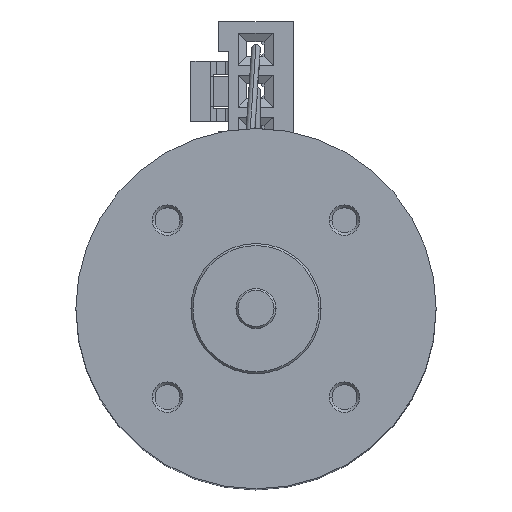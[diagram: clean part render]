
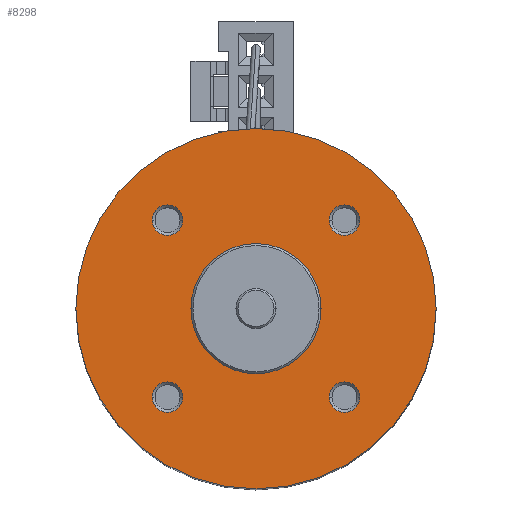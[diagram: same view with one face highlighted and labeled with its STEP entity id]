
A CAD part, top view. The second image highlights one B-rep face of the part: STEP entity #8298.
In plain terms, the highlighted planar face has unit normal (0, 0, 1).
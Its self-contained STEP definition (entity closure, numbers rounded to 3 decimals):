
#171 = CIRCLE ( 'NONE', #9881, 1.525 ) ;
#367 = VERTEX_POINT ( 'NONE', #5344 ) ;
#370 = VERTEX_POINT ( 'NONE', #5340 ) ;
#371 = VERTEX_POINT ( 'NONE', #5341 ) ;
#375 = VERTEX_POINT ( 'NONE', #5339 ) ;
#376 = VERTEX_POINT ( 'NONE', #5348 ) ;
#377 = VERTEX_POINT ( 'NONE', #5349 ) ;
#382 = VERTEX_POINT ( 'NONE', #5464 ) ;
#383 = VERTEX_POINT ( 'NONE', #8027 ) ;
#388 = VERTEX_POINT ( 'NONE', #8032 ) ;
#389 = VERTEX_POINT ( 'NONE', #8033 ) ;
#392 = VERTEX_POINT ( 'NONE', #8036 ) ;
#394 = VERTEX_POINT ( 'NONE', #8038 ) ;
#672 = EDGE_CURVE ( 'NONE', #371, #370, #9367, .T. ) ;
#716 = AXIS2_PLACEMENT_3D ( 'NONE', #8052, #8053, #8054 ) ;
#926 = AXIS2_PLACEMENT_3D ( 'NONE', #7052, #7048, #7054 ) ;
#1414 = CARTESIAN_POINT ( 'NONE',  ( -8.839, 8.839, 65.2 ) ) ;
#1415 = DIRECTION ( 'NONE',  ( 0., 0., 1. ) ) ;
#1416 = DIRECTION ( 'NONE',  ( 1., 0., 0. ) ) ;
#1791 = CIRCLE ( 'NONE', #9893, 1.525 ) ;
#1818 = CIRCLE ( 'NONE', #9899, 1.525 ) ;
#1840 = CIRCLE ( 'NONE', #9903, 6.5 ) ;
#1911 = CIRCLE ( 'NONE', #9913, 6.5 ) ;
#1912 = CIRCLE ( 'NONE', #9914, 1.525 ) ;
#1915 = CIRCLE ( 'NONE', #9917, 1.525 ) ;
#1918 = CIRCLE ( 'NONE', #9920, 1.525 ) ;
#1921 = CIRCLE ( 'NONE', #9923, 1.525 ) ;
#1924 = CIRCLE ( 'NONE', #9926, 18. ) ;
#1944 = CIRCLE ( 'NONE', #9936, 18. ) ;
#2070 = CARTESIAN_POINT ( 'NONE',  ( -8.839, -8.839, 65.2 ) ) ;
#2071 = DIRECTION ( 'NONE',  ( 0., 0., 1. ) ) ;
#2072 = DIRECTION ( 'NONE',  ( 1., 0., 0. ) ) ;
#2106 = CARTESIAN_POINT ( 'NONE',  ( 8.839, -8.839, 65.2 ) ) ;
#2107 = DIRECTION ( 'NONE',  ( 0., 0., 1. ) ) ;
#2108 = DIRECTION ( 'NONE',  ( 1., 0., 0. ) ) ;
#2138 = CARTESIAN_POINT ( 'NONE',  ( 0., 0., 65.2 ) ) ;
#2139 = DIRECTION ( 'NONE',  ( 0., 0., 1. ) ) ;
#2140 = DIRECTION ( 'NONE',  ( 1., 0., 0. ) ) ;
#2224 = CARTESIAN_POINT ( 'NONE',  ( 0., 0., 65.2 ) ) ;
#2225 = DIRECTION ( 'NONE',  ( 0., 0., 1. ) ) ;
#2226 = DIRECTION ( 'NONE',  ( 1., 0., 0. ) ) ;
#2227 = CARTESIAN_POINT ( 'NONE',  ( 8.839, -8.839, 65.2 ) ) ;
#2228 = DIRECTION ( 'NONE',  ( 0., 0., 1. ) ) ;
#2229 = DIRECTION ( 'NONE',  ( 1., 0., 0. ) ) ;
#2236 = CARTESIAN_POINT ( 'NONE',  ( -8.839, -8.839, 65.2 ) ) ;
#2237 = DIRECTION ( 'NONE',  ( 0., 0., 1. ) ) ;
#2238 = DIRECTION ( 'NONE',  ( 1., 0., 0. ) ) ;
#2245 = CARTESIAN_POINT ( 'NONE',  ( -8.839, 8.839, 65.2 ) ) ;
#2246 = DIRECTION ( 'NONE',  ( 0., 0., 1. ) ) ;
#2247 = DIRECTION ( 'NONE',  ( 1., 0., 0. ) ) ;
#2254 = CARTESIAN_POINT ( 'NONE',  ( 8.839, 8.839, 65.2 ) ) ;
#2255 = DIRECTION ( 'NONE',  ( 0., 0., 1. ) ) ;
#2256 = DIRECTION ( 'NONE',  ( 1., 0., 0. ) ) ;
#2263 = CARTESIAN_POINT ( 'NONE',  ( 0., 0., 65.2 ) ) ;
#2264 = DIRECTION ( 'NONE',  ( 0., 0., 1. ) ) ;
#2265 = DIRECTION ( 'NONE',  ( 1., 0., 0. ) ) ;
#2309 = CARTESIAN_POINT ( 'NONE',  ( 0., 0., 65.2 ) ) ;
#2310 = DIRECTION ( 'NONE',  ( 0., 0., 1. ) ) ;
#2311 = DIRECTION ( 'NONE',  ( 1., 0., 0. ) ) ;
#5339 = CARTESIAN_POINT ( 'NONE',  ( -18., 0., 65.2 ) ) ;
#5340 = CARTESIAN_POINT ( 'NONE',  ( 10.364, 8.839, 65.2 ) ) ;
#5341 = CARTESIAN_POINT ( 'NONE',  ( 7.314, 8.839, 65.2 ) ) ;
#5344 = CARTESIAN_POINT ( 'NONE',  ( 18., 0., 65.2 ) ) ;
#5348 = CARTESIAN_POINT ( 'NONE',  ( -7.314, 8.839, 65.2 ) ) ;
#5349 = CARTESIAN_POINT ( 'NONE',  ( -10.364, 8.839, 65.2 ) ) ;
#5464 = CARTESIAN_POINT ( 'NONE',  ( -7.314, -8.839, 65.2 ) ) ;
#5717 = FACE_BOUND ( 'NONE', #7232, .T. ) ;
#5719 = FACE_OUTER_BOUND ( 'NONE', #7235, .T. ) ;
#5720 = FACE_BOUND ( 'NONE', #7233, .T. ) ;
#5721 = FACE_BOUND ( 'NONE', #7239, .T. ) ;
#5723 = FACE_BOUND ( 'NONE', #7242, .T. ) ;
#5724 = FACE_BOUND ( 'NONE', #7231, .T. ) ;
#7048 = DIRECTION ( 'NONE',  ( 0., 0., 1. ) ) ;
#7050 = PLANE ( 'NONE',  #926 ) ;
#7052 = CARTESIAN_POINT ( 'NONE',  ( 0., 0., 65.2 ) ) ;
#7054 = DIRECTION ( 'NONE',  ( 1., 0., 0. ) ) ;
#7231 = EDGE_LOOP ( 'NONE', ( #10636, #10635 ) ) ;
#7232 = EDGE_LOOP ( 'NONE', ( #10646, #10645 ) ) ;
#7233 = EDGE_LOOP ( 'NONE', ( #10640, #10639 ) ) ;
#7235 = EDGE_LOOP ( 'NONE', ( #10638, #10637 ) ) ;
#7239 = EDGE_LOOP ( 'NONE', ( #10642, #10641 ) ) ;
#7242 = EDGE_LOOP ( 'NONE', ( #10644, #10643 ) ) ;
#8027 = CARTESIAN_POINT ( 'NONE',  ( -10.364, -8.839, 65.2 ) ) ;
#8032 = CARTESIAN_POINT ( 'NONE',  ( 10.364, -8.839, 65.2 ) ) ;
#8033 = CARTESIAN_POINT ( 'NONE',  ( 7.314, -8.839, 65.2 ) ) ;
#8036 = CARTESIAN_POINT ( 'NONE',  ( -6.5, 0., 65.2 ) ) ;
#8038 = CARTESIAN_POINT ( 'NONE',  ( 6.5, 0., 65.2 ) ) ;
#8052 = CARTESIAN_POINT ( 'NONE',  ( 8.839, 8.839, 65.2 ) ) ;
#8053 = DIRECTION ( 'NONE',  ( 0., 0., 1. ) ) ;
#8054 = DIRECTION ( 'NONE',  ( 1., 0., 0. ) ) ;
#8298 = ADVANCED_FACE ( 'NONE', ( #5717, #5723, #5721, #5720, #5719, #5724 ), #7050, .T. ) ;
#9367 = CIRCLE ( 'NONE', #716, 1.525 ) ;
#9881 = AXIS2_PLACEMENT_3D ( 'NONE', #1414, #1415, #1416 ) ;
#9893 = AXIS2_PLACEMENT_3D ( 'NONE', #2070, #2071, #2072 ) ;
#9899 = AXIS2_PLACEMENT_3D ( 'NONE', #2106, #2107, #2108 ) ;
#9903 = AXIS2_PLACEMENT_3D ( 'NONE', #2138, #2139, #2140 ) ;
#9913 = AXIS2_PLACEMENT_3D ( 'NONE', #2224, #2225, #2226 ) ;
#9914 = AXIS2_PLACEMENT_3D ( 'NONE', #2227, #2228, #2229 ) ;
#9917 = AXIS2_PLACEMENT_3D ( 'NONE', #2236, #2237, #2238 ) ;
#9920 = AXIS2_PLACEMENT_3D ( 'NONE', #2245, #2246, #2247 ) ;
#9923 = AXIS2_PLACEMENT_3D ( 'NONE', #2254, #2255, #2256 ) ;
#9926 = AXIS2_PLACEMENT_3D ( 'NONE', #2263, #2264, #2265 ) ;
#9936 = AXIS2_PLACEMENT_3D ( 'NONE', #2309, #2310, #2311 ) ;
#10333 = EDGE_CURVE ( 'NONE', #377, #376, #171, .T. ) ;
#10374 = EDGE_CURVE ( 'NONE', #383, #382, #1791, .T. ) ;
#10389 = EDGE_CURVE ( 'NONE', #389, #388, #1818, .T. ) ;
#10402 = EDGE_CURVE ( 'NONE', #394, #392, #1840, .T. ) ;
#10442 = EDGE_CURVE ( 'NONE', #392, #394, #1911, .T. ) ;
#10443 = EDGE_CURVE ( 'NONE', #388, #389, #1912, .T. ) ;
#10446 = EDGE_CURVE ( 'NONE', #382, #383, #1915, .T. ) ;
#10449 = EDGE_CURVE ( 'NONE', #376, #377, #1918, .T. ) ;
#10452 = EDGE_CURVE ( 'NONE', #370, #371, #1921, .T. ) ;
#10455 = EDGE_CURVE ( 'NONE', #375, #367, #1924, .T. ) ;
#10471 = EDGE_CURVE ( 'NONE', #367, #375, #1944, .T. ) ;
#10635 = ORIENTED_EDGE ( 'NONE', *, *, #10402, .F. ) ;
#10636 = ORIENTED_EDGE ( 'NONE', *, *, #10442, .F. ) ;
#10637 = ORIENTED_EDGE ( 'NONE', *, *, #10471, .T. ) ;
#10638 = ORIENTED_EDGE ( 'NONE', *, *, #10455, .T. ) ;
#10639 = ORIENTED_EDGE ( 'NONE', *, *, #672, .F. ) ;
#10640 = ORIENTED_EDGE ( 'NONE', *, *, #10452, .F. ) ;
#10641 = ORIENTED_EDGE ( 'NONE', *, *, #10333, .F. ) ;
#10642 = ORIENTED_EDGE ( 'NONE', *, *, #10449, .F. ) ;
#10643 = ORIENTED_EDGE ( 'NONE', *, *, #10374, .F. ) ;
#10644 = ORIENTED_EDGE ( 'NONE', *, *, #10446, .F. ) ;
#10645 = ORIENTED_EDGE ( 'NONE', *, *, #10389, .F. ) ;
#10646 = ORIENTED_EDGE ( 'NONE', *, *, #10443, .F. ) ;
